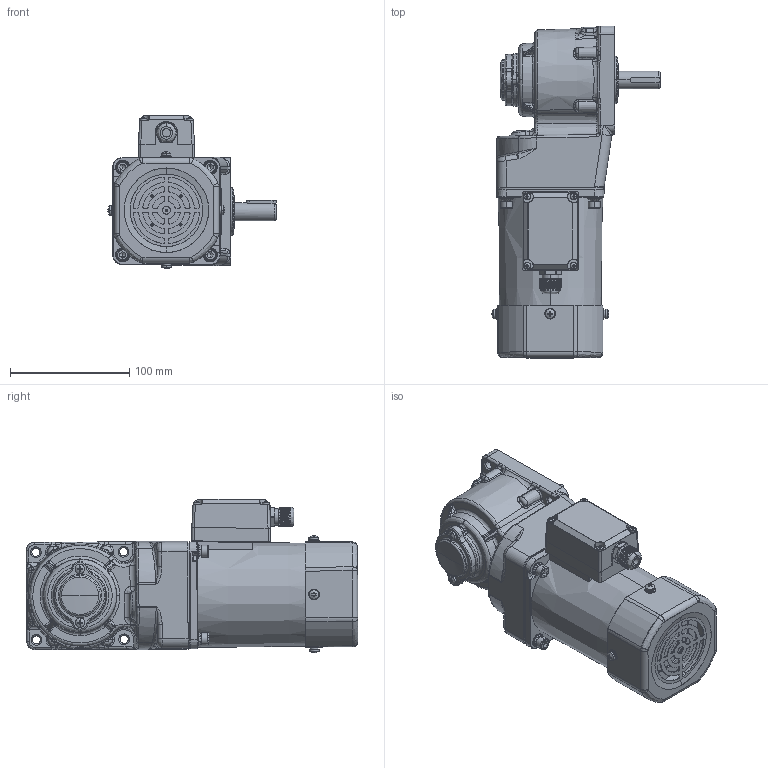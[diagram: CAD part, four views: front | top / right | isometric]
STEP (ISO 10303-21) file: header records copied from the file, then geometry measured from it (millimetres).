
FILE_DESCRIPTION (( 'STEP AP203' ), '1' );
FILE_NAME ('5IK90RGU-CFT(5GU3RT-180RT)ÐÂ.STEP', '2023-08-18T05:45:34', ( 'Windows User' ), ( 'P R C' ), 'SwSTEP 2.0', 'SolidWorks 2019', '' );
FILE_SCHEMA (( 'CONFIG_CONTROL_DESIGN' ));
Length unit declared in the file: millimetre
Products named in the file (10): ZD-5GU50RC-505-003______^5IK90RGU-CFT(5GU3RT-180RT)陔(2)_5IK90RGU-CFT(5GU3RT-180RT)陔; zd-5gu-50rc-504-001m#________ 2021-12-07 - ____^5IK90RGU-CFT(5GU3RT-180RT)ÐÂ(2)_5IK90RGU-CFT(5GU3RT-180RT)ÐÂ; 90RT____________^5IK90RGU-CFT(5GU3RT-180RT)ÐÂ(2)_5IK90RGU-CFT(5GU3RT-180RT)ÐÂ; 5IK90RGU-CFT(5GU3RT-180RT)陔(2)^5IK90RGU-CFT(5GU3RT-180RT)陔; cross recessed pan head screws gb_GB_CROSS_SCREWS_TYPE1 M4X6-6  H type-N^5IK90RGU-CFT(5GU3RT-180RT)ÐÂ(2)_5IK90RGU-CFT(5GU3RT-180RT)ÐÂ; hexagon socket head cap screws gb_GB_FASTENER_SCREWS_HSHCS M5X12-N^5IK90RGU-CFT(5GU3RT-180RT)ÐÂ(2)_5IK90RGU-CFT(5GU3RT-180RT)ÐÂ; 5IK90RGU-CFT(5GU3RT-180RT)^5IK90RGU-CFT(5GU3RT-180RT)ÐÂ(2)_5IK90RGU-CFT(5GU3RT-180RT)ÐÂ; 90__________^5IK90RGU-CFT(5GU3RT-180RT)陔(2)_5IK90RGU-CFT(5GU3RT-180RT)陔; 90____^5IK90RGU-CFT(5GU3RT-180RT)陔(2)_5IK90RGU-CFT(5GU3RT-180RT)陔; 5IK90RGU-CFT(5GU3RT-180RT)陔
Assembly tree (13 placements, depth 3):
  5IK90RGU-CFT(5GU3RT-180RT)陔
    5IK90RGU-CFT(5GU3RT-180RT)陔(2)^5IK90RGU-CFT(5GU3RT-180RT)陔
      zd-5gu-50rc-504-001m#________ 2021-12-07 - ____^5IK90RGU-CFT(5GU3RT-180RT)ÐÂ(2)_5IK90RGU-CFT(5GU3RT-180RT)ÐÂ
      90__________^5IK90RGU-CFT(5GU3RT-180RT)陔(2)_5IK90RGU-CFT(5GU3RT-180RT)陔
      90____^5IK90RGU-CFT(5GU3RT-180RT)陔(2)_5IK90RGU-CFT(5GU3RT-180RT)陔
      ZD-5GU50RC-505-003______^5IK90RGU-CFT(5GU3RT-180RT)陔(2)_5IK90RGU-CFT(5GU3RT-180RT)陔
      90RT____________^5IK90RGU-CFT(5GU3RT-180RT)ÐÂ(2)_5IK90RGU-CFT(5GU3RT-180RT)ÐÂ
      hexagon socket head cap screws gb_GB_FASTENER_SCREWS_HSHCS M5X12-N^5IK90RGU-CFT(5GU3RT-180RT)ÐÂ(2)_5IK90RGU-CFT(5GU3RT-180RT)ÐÂ  x4
      cross recessed pan head screws gb_GB_CROSS_SCREWS_TYPE1 M4X6-6  H type-N^5IK90RGU-CFT(5GU3RT-180RT)ÐÂ(2)_5IK90RGU-CFT(5GU3RT-180RT)ÐÂ  x2
      5IK90RGU-CFT(5GU3RT-180RT)^5IK90RGU-CFT(5GU3RT-180RT)ÐÂ(2)_5IK90RGU-CFT(5GU3RT-180RT)ÐÂ
Bounding box: 141.06 x 278.46 x 128.77 mm (x, y, z)
Volume: 1722550.9 mm3; surface area: 232933.7 mm2
Topology: 49 solids, 49 shells, 2968 faces, 7420 edges, 4484 vertices
Faces by surface type: cylinder 822, plane 791, cone 699, bspline 554, torus 92, sphere 10
Entity records: 117446 total; most frequent: CARTESIAN_POINT 52616, ORIENTED_EDGE 14082, DIRECTION 12479, EDGE_CURVE 7041, AXIS2_PLACEMENT_3D 4980, VERTEX_POINT 4342, EDGE_LOOP 3031, ADVANCED_FACE 2868
